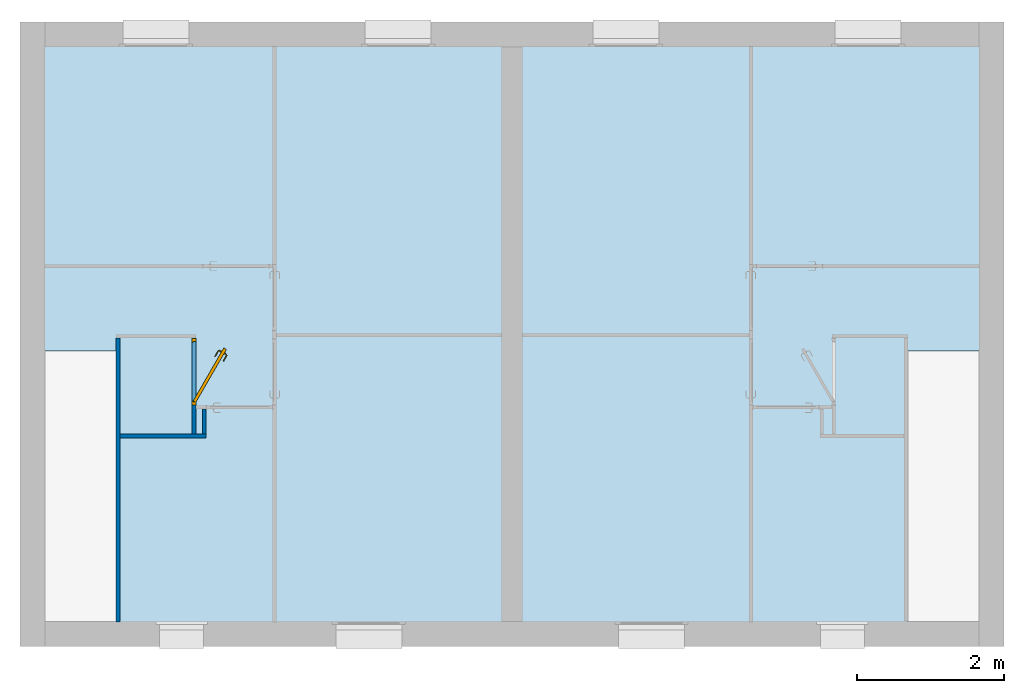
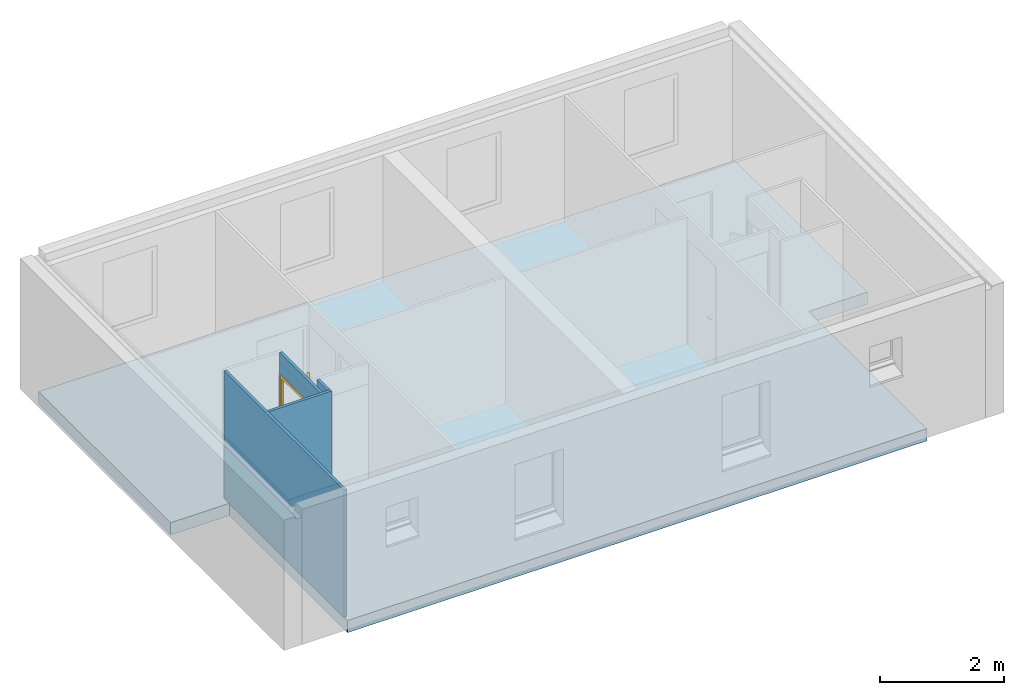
# One storey, part 1 of 13: 4 walls, 1 door, 1 slab, 1 opening.
"""IFC2X3 building model written with IfcOpenShell, lengths in metres."""

import ifcopenshell
import ifcopenshell.guid

model = None  # the IFC model being written
_history = None  # IfcOwnerHistory: only IFC2X3 demands one
_inside = {}  # id of a spatial element -> (the spatial element, [elements in it])
_under = {}  # id of a project, library or spatial element -> (it, [spatial elements below it])
_declared = {}  # id of a project -> (the project, [libraries it declares])
_typed = {}  # id of a type object -> (the type object, [elements of that type])
_made_of = {}  # id of a material, layer set ... -> (it, [elements and type objects made of it])


def new_model(schema):
    """Start an empty IFC model of exactly this schema.

    Asked for "IFC4X3", IfcOpenShell would pick the latest addendum, in which some entities
    have other attributes; the version numbers below select the first issue.
    IFC2X3 requires an IfcOwnerHistory on every rooted entity: one is made here for all.
    """
    global model, _history
    if schema == "IFC4X3":
        model = ifcopenshell.file(schema_version=(4, 3, 0, 0))
    else:
        model = ifcopenshell.file(schema=schema)
    _inside.clear()
    _under.clear()
    _declared.clear()
    _typed.clear()
    _made_of.clear()
    _history = None
    if model.schema == "IFC2X3":
        org = make("IfcOrganization", Name="unknown")
        user = make(
            "IfcPersonAndOrganization",
            ThePerson=make("IfcPerson", FamilyName="unknown"),
            TheOrganization=org,
        )
        app = make(
            "IfcApplication",
            ApplicationDeveloper=org,
            Version="unknown",
            ApplicationFullName="unknown",
            ApplicationIdentifier="unknown",
        )
        _history = make(
            "IfcOwnerHistory",
            OwningUser=user,
            OwningApplication=app,
            ChangeAction="ADDED",
            CreationDate=0,
        )
    return model


def make(cls, **values):
    """One entity of the class cls with the attributes given. An attribute that is None is left unset."""
    return model.create_entity(
        cls, **{name: value for name, value in values.items() if value is not None}
    )


def entity(cls, *values):
    """Any entity or typed value of the class cls, its attributes in the order of the schema. None: left unset."""
    e = model.create_entity(cls)
    for i, value in enumerate(values):
        if value is not None:
            e[i] = value
    return e


def rooted(cls, **values):
    """An entity with a GlobalId (a new one), such as an element, a storey or a relation."""
    return make(cls, GlobalId=ifcopenshell.guid.new(), OwnerHistory=_history, **values)


def si_unit(unit_type, name, prefix=None):
    """IfcSIUnit, for example si_unit("LENGTHUNIT", "METRE", prefix="MILLI")."""
    return make("IfcSIUnit", UnitType=unit_type, Prefix=prefix, Name=name)


def converted_unit(unit_type, name, factor, base, dimensions=None, offset=None):
    """IfcConversionBasedUnit, such as the inch: factor (a typed value) times the base unit."""
    return make(
        "IfcConversionBasedUnit"
        if offset is None
        else "IfcConversionBasedUnitWithOffset",
        ConversionOffset=offset,
        Dimensions=None
        if dimensions is None
        else entity("IfcDimensionalExponents", *dimensions),
        UnitType=unit_type,
        Name=name,
        ConversionFactor=make(
            "IfcMeasureWithUnit", ValueComponent=factor, UnitComponent=base
        ),
    )


def derived_unit(unit_type, elements):
    """IfcDerivedUnit: a product of units, each with its exponent."""
    return make(
        "IfcDerivedUnit",
        Elements=[
            make("IfcDerivedUnitElement", Unit=unit, Exponent=power)
            for unit, power in elements
        ],
        UnitType=unit_type,
    )


def assignment(units):
    """IfcUnitAssignment: the units of a project."""
    return None if units is None else make("IfcUnitAssignment", Units=units)


def point(xyz):
    """IfcCartesianPoint."""
    return None if xyz is None else make("IfcCartesianPoint", Coordinates=xyz)


def direction(xyz):
    """IfcDirection."""
    return None if xyz is None else make("IfcDirection", DirectionRatios=xyz)


def frame(location, z_axis=None, x_axis=None):
    """IfcAxis2Placement3D, a coordinate frame: its origin and axes. An axis left out is left unset."""
    return make(
        "IfcAxis2Placement3D",
        Location=point(location),
        Axis=direction(z_axis),
        RefDirection=direction(x_axis),
    )


def frame_2d(location, x_axis=None):
    """IfcAxis2Placement2D, a coordinate frame in the plane: its origin and x axis."""
    return make(
        "IfcAxis2Placement2D", Location=point(location), RefDirection=direction(x_axis)
    )


def origin():
    """The frame at (0, 0, 0) with its axes left unset."""
    return frame((0.0, 0.0, 0.0))


def place(relative_to, where):
    """IfcLocalPlacement: puts the frame where relative to a parent placement (None: the world)."""
    return make(
        "IfcLocalPlacement", PlacementRelTo=relative_to, RelativePlacement=where
    )


def context(
    kind, dimensions, precision=None, world=None, true_north=None, identifier=None
):
    """IfcGeometricRepresentationContext, for example the 3D "Model" context."""
    return make(
        "IfcGeometricRepresentationContext",
        ContextIdentifier=identifier,
        ContextType=kind,
        CoordinateSpaceDimension=dimensions,
        Precision=precision,
        WorldCoordinateSystem=world,
        TrueNorth=true_north,
    )


def subcontext(parent, identifier, kind, view, scale=None):
    """IfcGeometricRepresentationSubContext, for example "Body" below "Model"."""
    return make(
        "IfcGeometricRepresentationSubContext",
        ContextIdentifier=identifier,
        ContextType=kind,
        ParentContext=parent,
        TargetScale=scale,
        TargetView=view,
    )


def project(units=None, contexts=None):
    """IfcProject with its units and contexts."""
    return rooted(
        "IfcProject",
        Name="project",
        RepresentationContexts=contexts,
        UnitsInContext=assignment(units),
    )


def spatial(cls, under=None, at=None, **own):
    """A site, building, storey or space (cls), placed at a placement, below another one or the project."""
    s = rooted(cls, ObjectPlacement=at, **own)
    if under is not None:
        _under.setdefault(under.id(), (under, []))[1].append(s)
    return s


def polyline(points):
    """IfcPolyline through the points."""
    return make("IfcPolyline", Points=[point(p) for p in points])


def profile(cls, at=None, kind="AREA", **sizes):
    """A parametric profile (cls). Its sizes go by their IFC names, for example OverallWidth=200.0."""
    return make(cls, ProfileType=kind, Position=at, **sizes)


def rectangle(**sizes):
    """IfcRectangleProfileDef."""
    return profile("IfcRectangleProfileDef", **sizes)


def outline(outer, holes=None, kind="AREA"):
    """IfcArbitraryClosedProfileDef: a profile drawn as a closed curve; with holes, ...WithVoids."""
    if holes is None:
        return make("IfcArbitraryClosedProfileDef", ProfileType=kind, OuterCurve=outer)
    return make(
        "IfcArbitraryProfileDefWithVoids",
        ProfileType=kind,
        OuterCurve=outer,
        InnerCurves=holes,
    )


def extrude(swept, where, along, depth):
    """IfcExtrudedAreaSolid: the profile swept, set in the frame where, extruded along a direction by depth."""
    return make(
        "IfcExtrudedAreaSolid",
        SweptArea=swept,
        Position=where,
        ExtrudedDirection=direction(along),
        Depth=depth,
    )


def faces_of(points, faces, orient=None, outer=None):
    """IfcFace entities. A face is a list of loops; a loop is a list of indices into points, from 0.

    orient and outer hold one flag for each loop. By default every Orientation is true, the
    first loop of a face is its IfcFaceOuterBound and the others are IfcFaceBound.
    """
    made = []
    for i, loops in enumerate(faces):
        bounds = []
        for j, loop in enumerate(loops):
            is_outer = j == 0 if outer is None else outer[i][j]
            bounds.append(
                make(
                    "IfcFaceOuterBound" if is_outer else "IfcFaceBound",
                    Bound=make("IfcPolyLoop", Polygon=[points[k] for k in loop]),
                    Orientation=True if orient is None else orient[i][j],
                )
            )
        made.append(make("IfcFace", Bounds=bounds))
    return made


def faceted_brep(points, faces, orient=None, outer=None, voids=None):
    """IfcFacetedBrep: a solid bounded by flat faces; with voids (closed shells), ...WithVoids."""
    shared = [point(p) for p in points]
    hull = make("IfcClosedShell", CfsFaces=faces_of(shared, faces, orient, outer))
    if voids is None:
        return make("IfcFacetedBrep", Outer=hull)
    return make(
        "IfcFacetedBrepWithVoids",
        Outer=hull,
        Voids=[
            make(cls, CfsFaces=faces_of(shared, fs, o, b)) for cls, fs, o, b in voids
        ],
    )


def shape(context_of_items, identifier, shape_type, items):
    """IfcShapeRepresentation: the items that make up one representation, for example the "Body"."""
    return make(
        "IfcShapeRepresentation",
        ContextOfItems=context_of_items,
        RepresentationIdentifier=identifier,
        RepresentationType=shape_type,
        Items=items,
    )


def source(mapping_origin, context_of_items, identifier, shape_type, items):
    """IfcRepresentationMap: a shape defined once, which mapped items show again and again."""
    return make(
        "IfcRepresentationMap",
        MappingOrigin=mapping_origin,
        MappedRepresentation=shape(context_of_items, identifier, shape_type, items),
    )


def transform(
    local_origin,
    x_axis=None,
    y_axis=None,
    z_axis=None,
    scale=None,
    scale2=None,
    scale3=None,
    uniform=True,
):
    """IfcCartesianTransformationOperator3D, or its non-uniform kind. x_axis, y_axis, z_axis: its Axis1, 2, 3."""
    if uniform:
        return make(
            "IfcCartesianTransformationOperator3D",
            Axis1=direction(x_axis),
            Axis2=direction(y_axis),
            LocalOrigin=point(local_origin),
            Scale=scale,
            Axis3=direction(z_axis),
        )
    return make(
        "IfcCartesianTransformationOperator3DnonUniform",
        Axis1=direction(x_axis),
        Axis2=direction(y_axis),
        LocalOrigin=point(local_origin),
        Scale=scale,
        Axis3=direction(z_axis),
        Scale2=scale2,
        Scale3=scale3,
    )


def mapped(mapping_source, mapping_target):
    """IfcMappedItem: shows the shape of a source again, moved by a transform."""
    return make(
        "IfcMappedItem", MappingSource=mapping_source, MappingTarget=mapping_target
    )


def material(Name=None, Category=None):
    """IfcMaterial."""
    return make("IfcMaterial", Name=Name, Category=Category)


def material_list(materials):
    """IfcMaterialList."""
    return make("IfcMaterialList", Materials=materials)


def layer(
    of_material, thickness, ventilated=None, Name=None, Category=None, Priority=None
):
    """IfcMaterialLayer: one layer of a wall or slab, of a material (None: an air gap)."""
    return make(
        "IfcMaterialLayer",
        Material=of_material,
        LayerThickness=thickness,
        IsVentilated=ventilated,
        Name=Name,
        Category=Category,
        Priority=Priority,
    )


def layer_set(layers, Name=None):
    """IfcMaterialLayerSet."""
    return make("IfcMaterialLayerSet", MaterialLayers=layers, LayerSetName=Name)


def layer_usage(for_layer_set, set_direction, sense, offset, extent=None):
    """IfcMaterialLayerSetUsage: how a layer set lies in its element."""
    return make(
        "IfcMaterialLayerSetUsage",
        ForLayerSet=for_layer_set,
        LayerSetDirection=set_direction,
        DirectionSense=sense,
        OffsetFromReferenceLine=offset,
        ReferenceExtent=extent,
    )


def made_of(thing, what):
    """Note that an element or type object is made of a material, layer set ...; save() writes the relation."""
    if what is not None:
        _made_of.setdefault(what.id(), (what, []))[1].append(thing)
    return thing


def type_object(cls, material=None, **own):
    """A type object (cls), such as IfcWallType, which elements share."""
    return made_of(rooted(cls, **own), material)


def type_shapes(of_type, sources):
    """Give a type object the sources (RepresentationMaps) that its elements show as mapped items."""
    of_type.RepresentationMaps = sources


def element(
    cls,
    number,
    at=None,
    inside=None,
    cuts=None,
    type_object=None,
    material=None,
    context=None,
    identifier="Body",
    shape_type=None,
    held_by="IfcProductDefinitionShape",
    body=None,
    shapes=None,
    **own,
):
    """One element of the class cls, such as IfcWall. Its Tag is "e" and its number.

    at: its placement. inside: the storey or other place that contains it. cuts: it is an
    opening in that element (IfcRelVoidsElement). A single representation is given by context,
    identifier, shape_type and body (its items); several are given by shapes. held_by: the class
    of the entity that holds the representations. save() writes the other relations.
    """
    e = rooted(cls, Tag="e%d" % number, ObjectPlacement=at, **own)
    if body is not None:
        shapes = [shape(context, identifier, shape_type, body)]
    if shapes is not None:
        e.Representation = make(held_by, Representations=shapes)
    if inside is not None:
        _inside.setdefault(inside.id(), (inside, []))[1].append(e)
    if cuts is not None:
        rooted(
            "IfcRelVoidsElement", RelatingBuildingElement=cuts, RelatedOpeningElement=e
        )
    if type_object is not None:
        _typed.setdefault(type_object.id(), (type_object, []))[1].append(e)
    return made_of(e, material)


def fill(opening, filler):
    """IfcRelFillsElement: the door or window that sits in an opening."""
    return rooted(
        "IfcRelFillsElement",
        RelatingOpeningElement=opening,
        RelatedBuildingElement=filler,
    )


def aggregate(whole, parts):
    """IfcRelAggregates: a whole, such as a stair, and the parts it consists of."""
    return rooted("IfcRelAggregates", RelatingObject=whole, RelatedObjects=parts)


def save(model, path):
    """Write the relations noted so far, then the file.

    IfcRelAggregates (storeys below a building ...), IfcRelContainedInSpatialStructure (elements
    in a storey), IfcRelDefinesByType, IfcRelAssociatesMaterial and IfcRelDeclares: one each for
    every whole, place, type object, material and project.
    """
    for whole, parts in _under.values():
        aggregate(whole, parts)
    for where, things in _inside.values():
        rooted(
            "IfcRelContainedInSpatialStructure",
            RelatedElements=things,
            RelatingStructure=where,
        )
    for kind, things in _typed.values():
        rooted("IfcRelDefinesByType", RelatedObjects=things, RelatingType=kind)
    for what, things in _made_of.values():
        rooted("IfcRelAssociatesMaterial", RelatedObjects=things, RelatingMaterial=what)
    for by, libraries in _declared.values():
        rooted("IfcRelDeclares", RelatingContext=by, RelatedDefinitions=libraries)
    model.write(path)


model = new_model("IFC2X3")

# Units and contexts
model_context = context("Model", 3, precision=1e-05, world=origin(), true_north=direction((6.12303176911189e-17, 1.0)))
body_context = subcontext(model_context, "Body", "Model", "MODEL_VIEW")
ifc_project = project(units=[si_unit("LENGTHUNIT", "METRE"), si_unit("AREAUNIT", "SQUARE_METRE"), si_unit("VOLUMEUNIT", "CUBIC_METRE"), converted_unit("PLANEANGLEUNIT", "DEGREE", entity("IfcRatioMeasure", 0.0174532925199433), si_unit("PLANEANGLEUNIT", "RADIAN"), dimensions=[0, 0, 0, 0, 0, 0, 0]), si_unit("MASSUNIT", "GRAM", prefix="KILO"), si_unit("TIMEUNIT", "SECOND"), si_unit("FREQUENCYUNIT", "HERTZ"), si_unit("THERMODYNAMICTEMPERATUREUNIT", "DEGREE_CELSIUS"), derived_unit("THERMALTRANSMITTANCEUNIT", [(si_unit("MASSUNIT", "GRAM", prefix="KILO"), 1), (si_unit("THERMODYNAMICTEMPERATUREUNIT", "KELVIN"), -1), (si_unit("TIMEUNIT", "SECOND"), -3)]), derived_unit("VOLUMETRICFLOWRATEUNIT", [(si_unit("LENGTHUNIT", "METRE"), 3), (si_unit("TIMEUNIT", "SECOND"), -1)]), si_unit("ELECTRICCURRENTUNIT", "AMPERE"), si_unit("ELECTRICVOLTAGEUNIT", "VOLT"), si_unit("POWERUNIT", "WATT"), si_unit("FORCEUNIT", "NEWTON", prefix="KILO"), si_unit("ILLUMINANCEUNIT", "LUX"), si_unit("LUMINOUSFLUXUNIT", "LUMEN"), si_unit("LUMINOUSINTENSITYUNIT", "CANDELA"), derived_unit("USERDEFINED", [(si_unit("MASSUNIT", "GRAM", prefix="KILO"), -1), (si_unit("LENGTHUNIT", "METRE"), -2), (si_unit("TIMEUNIT", "SECOND"), 3), (si_unit("LUMINOUSFLUXUNIT", "LUMEN"), 1)]), derived_unit("LINEARVELOCITYUNIT", [(si_unit("LENGTHUNIT", "METRE"), 1), (si_unit("TIMEUNIT", "SECOND"), -1)]), si_unit("PRESSUREUNIT", "PASCAL"), derived_unit("USERDEFINED", [(si_unit("LENGTHUNIT", "METRE"), -2), (si_unit("MASSUNIT", "GRAM", prefix="KILO"), 1), (si_unit("TIMEUNIT", "SECOND"), -2)])], contexts=[model_context])

# Site, building, storey
site_placement = place(None, origin())
site = spatial("IfcSite", under=ifc_project, at=site_placement, Name="Surface", CompositionType="ELEMENT")
building_placement = place(site_placement, origin())
building = spatial("IfcBuilding", under=site, at=building_placement, CompositionType="ELEMENT")
storey_placement = place(building_placement, frame((0.0, 0.0, 2.74)))
storey = spatial("IfcBuildingStorey", under=building, at=storey_placement, Name="Plan étage", CompositionType="ELEMENT", Elevation=2.74)

# Slab
ifc_material_1 = material(Name="<Unnamed>")
ifc_layer_1 = layer(ifc_material_1, 0.01)
ifc_material_2 = material(Name="Maçonnerie - Béton")
ifc_layer_2 = layer(ifc_material_2, 0.22)
ifc_layer_3 = layer(ifc_material_1, 0.01)
ifc_layer_set_1 = layer_set([ifc_layer_1, ifc_layer_2, ifc_layer_3], Name="Sol:Dalle Béton -160 + 60 mm")
ifc_layer_usage_1 = layer_usage(ifc_layer_set_1, "AXIS3", "POSITIVE", 0.0)
slab_placement = place(storey_placement, origin())
element("IfcSlab", 1, at=slab_placement, inside=storey, material=ifc_layer_usage_1, Name="Sol:Dalle Béton -160 + 60 mm", ObjectType="Sol:Dalle Béton -160 + 60 mm", PredefinedType="FLOOR", context=body_context, shape_type="SweptSolid", body=[
    extrude(outline(polyline([(-0.112749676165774, -6.47999999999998), (4.14341655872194, -6.47999999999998), (4.14341655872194, 6.47999999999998), (-0.114083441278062, 6.47999999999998), (-0.114083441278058, 5.38999999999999), (-3.9165834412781, 5.38999999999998), (-3.9165834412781, -5.38999999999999), (-0.112749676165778, -5.38999999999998), (-0.112749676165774, -6.47999999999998)])), frame((-4.93608881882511, 1.32083922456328, 0.0), z_axis=(0.0, 0.0, -1.0), x_axis=(0.0, 1.0, 0.0)), (0.0, 0.0, 1.0), 0.24),
])

# Wall, opening, door
ifc_material_3 = material(Name="Maçonnerie - Isolant(1)")
ifc_layer_4 = layer(ifc_material_3, 0.05)
ifc_layer_set_2 = layer_set([ifc_layer_4], Name="Mur de base:Int. plâtre 50 mm")
ifc_layer_usage_2 = layer_usage(ifc_layer_set_2, "AXIS2", "NEGATIVE", 0.025)
wall_type = type_object("IfcWallType", Name="Mur de base:Int. plâtre 50 mm", PredefinedType="STANDARD", material=ifc_layer_set_2)
wall_1_placement = place(storey_placement, frame((-9.26608881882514, 1.38425578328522, -0.00999999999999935), z_axis=(0.0, 0.0, 1.0), x_axis=(0.0, -1.0, 0.0)))
wall_1 = element("IfcWallStandardCase", 2, at=wall_1_placement, inside=storey, type_object=wall_type, material=ifc_layer_usage_2, Name="Mur de base:Int. plâtre 50 mm", ObjectType="Mur de base:Int. plâtre 50 mm", context=body_context, shape_type="SweptSolid", body=[
    extrude(rectangle(XDim=1.31, YDim=0.0499999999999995, at=frame_2d((0.655000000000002, 0.0), x_axis=(-1.0, 0.0))), origin(), (0.0, 0.0, 1.0), 2.51),
])
opening_placement = place(wall_1_placement, frame((0.0100000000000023, -0.025, 0.00999999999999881)))
opening = element("IfcOpeningElement", 3, at=opening_placement, cuts=wall_1, Name="Int. Simple:PP (0.83m x 2.04m):1", ObjectType="Opening", context=body_context, shape_type="SweptSolid", body=[
    extrude(rectangle(XDim=2.075, YDim=0.9, at=frame_2d((1.0375, 0.45), x_axis=(1.0, 0.0))), frame((0.0, 0.0, 0.0), z_axis=(0.0, 1.0, 0.0), x_axis=(0.0, 0.0, 1.0)), (0.0, 0.0, 1.0), 0.05),
])
ifc_material_4 = material(Name="Finition Peinture - Blanc satiné")
ifc_material_5 = material(Name="Bois - Panneau de porte")
ifc_material_6 = material(Name="Bois - Cadre de porte")
ifc_material_list_1 = material_list([ifc_material_4, ifc_material_5, ifc_material_6])
ifc_material_list_2 = material_list([ifc_material_4, ifc_material_5, ifc_material_6])
door_style = type_object("IfcDoorStyle", Name="PP (0.83m x 2.04m)", ConstructionType="NOTDEFINED", OperationType="SINGLE_SWING_RIGHT", ParameterTakesPrecedence=False, Sizeable=False, material=ifc_material_list_2)
shared_shape = source(origin(), body_context, "Body", "Brep", [
    faceted_brep([(0.786660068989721, -0.399330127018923, 0.870000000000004), (0.786660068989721, -0.399330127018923, 1.08), (0.778305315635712, -0.394506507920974, 1.08399601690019), (0.769339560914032, -0.389330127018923, 1.08535898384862), (0.760373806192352, -0.384153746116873, 1.08399601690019), (0.752019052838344, -0.379330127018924, 1.08), (0.752019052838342, -0.379330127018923, 0.870000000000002), (0.760373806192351, -0.384153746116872, 0.866003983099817), (0.769339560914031, -0.389330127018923, 0.86464101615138), (0.778305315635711, -0.394506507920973, 0.866003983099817), (0.789160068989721, -0.395000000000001, 1.08), (0.789160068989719, -0.395, 0.870000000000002), (0.780805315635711, -0.390176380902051, 0.866003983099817), (0.771839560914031, -0.385, 0.86464101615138), (0.76287380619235, -0.37982361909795, 0.866003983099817), (0.754519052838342, -0.375000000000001, 0.870000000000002), (0.754519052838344, -0.375000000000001, 1.08), (0.762873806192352, -0.379823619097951, 1.08399601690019), (0.771839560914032, -0.385000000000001, 1.08535898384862), (0.780805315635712, -0.390176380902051, 1.08399601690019)], [[[0, 1, 2, 3, 4, 5, 6, 7, 8, 9]], [[10, 11, 12, 13, 14, 15, 16, 17, 18, 19]], [[9, 12, 11, 0]], [[8, 13, 12, 9]], [[7, 14, 13, 8]], [[7, 6, 15, 14]], [[15, 6, 5, 16]], [[4, 17, 16, 5]], [[3, 18, 17, 4]], [[2, 19, 18, 3]], [[2, 1, 10, 19]], [[11, 10, 1, 0]]]),
    faceted_brep([(0.809160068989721, -0.360358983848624, 0.870000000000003), (0.809160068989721, -0.360358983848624, 1.08), (0.800805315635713, -0.355535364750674, 1.08399601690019), (0.791839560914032, -0.350358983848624, 1.08535898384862), (0.782873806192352, -0.345182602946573, 1.08399601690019), (0.774519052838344, -0.340358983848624, 1.08), (0.774519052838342, -0.340358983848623, 0.870000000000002), (0.782873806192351, -0.345182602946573, 0.866003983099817), (0.791839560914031, -0.350358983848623, 0.86464101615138), (0.800805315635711, -0.355535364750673, 0.866003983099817), (0.794339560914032, -0.346028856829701, 1.08535898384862), (0.803305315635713, -0.351205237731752, 1.08399601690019), (0.811660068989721, -0.356028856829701, 1.08), (0.811660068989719, -0.356028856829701, 0.870000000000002), (0.803305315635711, -0.351205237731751, 0.866003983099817), (0.794339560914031, -0.346028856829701, 0.86464101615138), (0.785373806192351, -0.34085247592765, 0.866003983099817), (0.777019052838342, -0.336028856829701, 0.870000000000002), (0.777019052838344, -0.336028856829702, 1.08), (0.785373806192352, -0.340852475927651, 1.08399601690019)], [[[0, 1, 2, 3, 4, 5, 6, 7, 8, 9]], [[10, 11, 12, 13, 14, 15, 16, 17, 18, 19]], [[4, 19, 18, 5]], [[3, 10, 19, 4]], [[2, 11, 10, 3]], [[2, 1, 12, 11]], [[13, 12, 1, 0]], [[9, 14, 13, 0]], [[8, 15, 14, 9]], [[7, 16, 15, 8]], [[7, 6, 17, 16]], [[17, 6, 5, 18]]]),
    faceted_brep([(0.767585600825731, -0.388317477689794, 1.00778044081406), (0.771093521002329, -0.390342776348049, 1.00778044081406), (0.774535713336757, -0.392330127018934, 1.00699999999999), (0.774535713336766, -0.392330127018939, 0.992999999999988), (0.771093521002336, -0.390342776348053, 0.99221955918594), (0.767585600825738, -0.388317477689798, 0.992219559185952), (0.764143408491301, -0.386330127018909, 0.993000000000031), (0.764143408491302, -0.38633012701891, 1.007), (0.758091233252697, -0.412863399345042, 1.00778044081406), (0.760710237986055, -0.416276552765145, 1.007), (0.755422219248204, -0.409385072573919, 1.00778044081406), (0.736740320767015, -0.414390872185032, 1.00778044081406), (0.73616805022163, -0.418737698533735, 1.00778044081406), (0.752803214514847, -0.405971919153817, 1.007), (0.752803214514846, -0.405971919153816, 0.993000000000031), (0.755422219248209, -0.409385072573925, 0.992219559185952), (0.758091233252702, -0.412863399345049, 0.99221955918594), (0.736168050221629, -0.418737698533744, 0.99221955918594), (0.736740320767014, -0.414390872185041, 0.992219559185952), (0.76071023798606, -0.416276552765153, 0.992999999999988), (0.735606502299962, -0.423003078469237, 1.007), (0.737301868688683, -0.410125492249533, 1.007), (0.737301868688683, -0.410125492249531, 0.993000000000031), (0.735606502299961, -0.423003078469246, 0.992999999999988), (0.659706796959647, -0.37918236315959, 1.007), (0.661694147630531, -0.375740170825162, 1.00778044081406), (0.663719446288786, -0.372232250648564, 1.00778044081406), (0.665706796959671, -0.368790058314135, 1.00699999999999), (0.665706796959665, -0.368790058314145, 0.993000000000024), (0.663719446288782, -0.372232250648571, 0.992219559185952), (0.661694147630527, -0.375740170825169, 0.99221955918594), (0.659706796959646, -0.379182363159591, 0.992999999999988), (0.699217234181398, -0.395065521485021, 1.0078786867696), (0.70102568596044, -0.403037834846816, 1.007), (0.701504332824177, -0.389457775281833, 1.007), (0.701504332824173, -0.389457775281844, 0.993000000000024), (0.699217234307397, -0.395065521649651, 0.992121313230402), (0.701025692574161, -0.403037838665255, 0.992999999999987)], [[[0, 1, 2, 3, 4, 5, 6, 7]], [[2, 1, 8, 9]], [[1, 0, 10, 11, 12, 8]], [[0, 7, 13, 10]], [[14, 13, 7, 6]], [[5, 15, 14, 6]], [[5, 4, 16, 17, 18, 15]], [[3, 19, 16, 4]], [[9, 19, 3, 2]], [[9, 8, 12, 20]], [[10, 13, 21, 11]], [[22, 21, 13, 14]], [[14, 15, 18, 22]], [[16, 19, 23, 17]], [[20, 23, 19, 9]], [[24, 25, 26, 27, 28, 29, 30, 31]], [[32, 25, 33]], [[33, 25, 24]], [[33, 20, 12]], [[11, 34, 32]], [[34, 11, 21]], [[27, 26, 34]], [[32, 26, 25]], [[32, 34, 26]], [[32, 33, 12]], [[11, 32, 12]], [[21, 22, 35, 28, 27, 34]], [[36, 29, 35]], [[30, 36, 37]], [[18, 35, 22]], [[29, 28, 35]], [[30, 37, 31]], [[37, 17, 23]], [[36, 17, 37]], [[36, 18, 17]], [[36, 35, 18]], [[29, 36, 30]], [[23, 20, 33, 24, 31, 37]]]),
    faceted_brep([(0.792585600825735, -0.345016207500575, 0.992219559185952), (0.796093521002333, -0.34704150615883, 0.99221955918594), (0.799535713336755, -0.349028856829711, 0.992999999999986), (0.799535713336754, -0.34902885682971, 1.007), (0.796093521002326, -0.347041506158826, 1.00778044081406), (0.792585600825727, -0.345016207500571, 1.00778044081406), (0.789143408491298, -0.343028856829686, 1.007), (0.789143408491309, -0.343028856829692, 0.993000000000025), (0.8003860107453, -0.323556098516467, 1.007), (0.800386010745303, -0.323556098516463, 0.993000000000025), (0.804651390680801, -0.324117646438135, 1.00778044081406), (0.808998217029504, -0.32468991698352, 1.00778044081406), (0.803073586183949, -0.302578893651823, 1.00778044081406), (0.799595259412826, -0.305247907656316, 1.00778044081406), (0.813263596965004, -0.325251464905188, 1.007), (0.813263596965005, -0.325251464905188, 0.992999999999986), (0.808998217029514, -0.324689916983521, 0.99221955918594), (0.804651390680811, -0.324117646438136, 0.992219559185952), (0.799595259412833, -0.30524790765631, 0.992219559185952), (0.803073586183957, -0.302578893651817, 0.99221955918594), (0.796182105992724, -0.307866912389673, 1.007), (0.796182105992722, -0.307866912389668, 0.993000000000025), (0.80648673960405, -0.299959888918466, 1.007), (0.806486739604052, -0.299959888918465, 0.992999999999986), (0.726669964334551, -0.263144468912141, 1.00778044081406), (0.728695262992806, -0.259636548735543, 1.00778044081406), (0.730682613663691, -0.256194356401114, 1.007), (0.730682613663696, -0.256194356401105, 0.992999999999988), (0.72869526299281, -0.259636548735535, 0.99221955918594), (0.726669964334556, -0.263144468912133, 0.992219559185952), (0.724682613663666, -0.26658666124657, 0.993000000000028), (0.724682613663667, -0.266586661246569, 1.007), (0.760432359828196, -0.287226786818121, 1.007), (0.760432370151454, -0.28722679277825, 0.993000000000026), (0.764145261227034, -0.282442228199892, 1.0078786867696), (0.771905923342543, -0.279994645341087, 1.007), (0.771905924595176, -0.279994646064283, 0.992999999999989), (0.764145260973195, -0.282442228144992, 0.992121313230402)], [[[0, 1, 2, 3, 4, 5, 6, 7]], [[8, 9, 7, 6]], [[5, 10, 8, 6]], [[5, 4, 11, 12, 13, 10]], [[3, 14, 11, 4]], [[14, 3, 2, 15]], [[2, 1, 16, 15]], [[1, 0, 17, 18, 19, 16]], [[0, 7, 9, 17]], [[20, 21, 9, 8]], [[8, 10, 13, 20]], [[14, 22, 12, 11]], [[23, 22, 14, 15]], [[15, 16, 19, 23]], [[17, 9, 21, 18]], [[24, 25, 26, 27, 28, 29, 30, 31]], [[21, 20, 32, 31, 30, 33]], [[34, 24, 32]], [[25, 34, 35]], [[13, 32, 20]], [[24, 31, 32]], [[25, 35, 26]], [[35, 12, 22]], [[34, 12, 35]], [[34, 13, 12]], [[34, 32, 13]], [[24, 34, 25]], [[22, 23, 36, 27, 26, 35]], [[37, 28, 36]], [[36, 28, 27]], [[36, 23, 19]], [[18, 33, 37]], [[33, 18, 21]], [[30, 29, 33]], [[37, 29, 28]], [[37, 33, 29]], [[37, 36, 19]], [[18, 37, 19]]]),
    faceted_brep([(0.843801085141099, -0.380358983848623, 2.04), (0.843801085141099, -0.380358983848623, 0.0), (0.125000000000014, 0.0346410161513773, 0.0), (0.125000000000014, 0.0346410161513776, 2.04), (0.823801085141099, -0.415, 2.04), (0.105000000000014, 0.0, 2.04), (0.105000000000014, 0.0, 0.0), (0.823801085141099, -0.415, 0.0)], [[[0, 1, 2, 3]], [[4, 5, 6, 7]], [[3, 5, 4, 0]], [[2, 6, 5, 3]], [[1, 7, 6, 2]], [[0, 4, 7, 1]]]),
    faceted_brep([(0.970000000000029, 0.0, 0.0), (0.935000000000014, 0.0, 0.0), (0.935000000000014, 0.040000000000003, 0.0), (0.920000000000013, 0.040000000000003, 0.0), (0.920000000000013, 0.050000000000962, 0.0), (0.970000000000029, 0.050000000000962, 0.0), (0.970000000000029, 0.050000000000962, 2.07500000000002), (0.970000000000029, 0.0, 2.07500000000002), (0.920000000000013, 0.050000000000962, 2.025), (0.120000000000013, 0.050000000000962, 2.025), (0.120000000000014, 0.050000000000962, 0.0), (0.0699999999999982, 0.050000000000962, 0.0), (0.0699999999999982, 0.050000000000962, 2.07500000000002), (0.920000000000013, 0.040000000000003, 2.025), (0.935000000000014, 0.040000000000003, 2.04), (0.105000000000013, 0.040000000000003, 2.04), (0.105000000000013, 0.040000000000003, 0.0), (0.120000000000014, 0.040000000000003, 0.0), (0.120000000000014, 0.040000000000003, 2.025), (0.935000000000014, 0.0, 2.04), (0.069999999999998, 0.0, 2.07500000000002), (0.0699999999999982, 0.0, 0.0), (0.105000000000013, 0.0, 0.0), (0.105000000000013, 0.0, 2.04)], [[[0, 1, 2, 3, 4, 5]], [[5, 6, 7, 0]], [[4, 8, 9, 10, 11, 12, 6, 5]], [[3, 13, 8, 4]], [[2, 14, 15, 16, 17, 18, 13, 3]], [[1, 19, 14, 2]], [[0, 7, 20, 21, 22, 23, 19, 1]], [[12, 11, 21, 20]], [[21, 11, 10, 17, 16, 22]], [[18, 17, 10, 9]], [[23, 22, 16, 15]], [[6, 12, 20, 7]], [[13, 18, 9, 8]], [[19, 23, 15, 14]]]),
    faceted_brep([(0.955000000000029, 0.050000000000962, 0.0), (0.955000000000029, 0.055000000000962, 0.0), (0.985000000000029, 0.055000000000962, 0.0), (0.985000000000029, 0.050000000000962, 0.0), (0.985000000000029, 0.050000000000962, 2.09000000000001), (0.0550000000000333, 0.050000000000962, 2.09000000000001), (0.0550000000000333, 0.050000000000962, 0.0), (0.0850000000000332, 0.050000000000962, 0.0), (0.0850000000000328, 0.050000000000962, 2.06000000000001), (0.955000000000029, 0.050000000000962, 2.06000000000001), (0.985000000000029, 0.055000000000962, 2.09000000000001), (0.955000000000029, 0.055000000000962, 2.06000000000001), (0.0850000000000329, 0.055000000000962, 2.06000000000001), (0.0850000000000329, 0.055000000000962, 0.0), (0.055000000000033, 0.055000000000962, 0.0), (0.0550000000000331, 0.055000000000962, 2.09000000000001)], [[[0, 1, 2, 3]], [[3, 4, 5, 6, 7, 8, 9, 0]], [[2, 10, 4, 3]], [[1, 11, 12, 13, 14, 15, 10, 2]], [[0, 9, 11, 1]], [[7, 6, 14, 13]], [[8, 7, 13, 12]], [[15, 14, 6, 5]], [[10, 15, 5, 4]], [[9, 8, 12, 11]]]),
    faceted_brep([(0.985000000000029, -0.005, 0.0), (0.985000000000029, -0.005, 2.09000000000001), (0.0550000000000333, -0.005, 2.09000000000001), (0.0550000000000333, -0.005, 0.0), (0.0850000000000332, -0.005, 0.0), (0.0850000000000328, -0.005, 2.06000000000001), (0.955000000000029, -0.005, 2.06000000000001), (0.955000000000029, -0.005, 0.0), (0.985000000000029, 0.0, 0.0), (0.985000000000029, 0.0, 2.09000000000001), (0.955000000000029, 0.0, 0.0), (0.955000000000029, 0.0, 2.06000000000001), (0.0850000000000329, 0.0, 2.06000000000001), (0.0850000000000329, 0.0, 0.0), (0.055000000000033, 0.0, 0.0), (0.0550000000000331, 0.0, 2.09000000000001)], [[[0, 1, 2, 3, 4, 5, 6, 7]], [[8, 9, 1, 0]], [[10, 11, 12, 13, 14, 15, 9, 8]], [[7, 6, 11, 10]], [[5, 4, 13, 12]], [[15, 14, 3, 2]], [[9, 15, 2, 1]], [[6, 5, 12, 11]], [[4, 3, 14, 13]], [[7, 10, 8, 0]]]),
])
type_shapes(door_style, [shared_shape])
door_placement = place(opening_placement, frame((0.970000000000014, 0.0499999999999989, 0.0), z_axis=(0.0, 0.0, 1.0), x_axis=(-1.0, 0.0, 0.0)))
door = element("IfcDoor", 4, at=door_placement, inside=storey, type_object=door_style, material=ifc_material_list_1, Name="Int. Simple:PP (0.83m x 2.04m)", ObjectType="PP (0.83m x 2.04m)", OverallHeight=2.075, OverallWidth=0.9, context=body_context, shape_type="MappedRepresentation", body=[
    mapped(shared_shape, transform((0.0, 0.0, 0.0), scale=1.0)),
])
fill(opening, door)

# Walls
ifc_layer_usage_3 = layer_usage(ifc_layer_set_2, "AXIS2", "NEGATIVE", 0.025)
wall_2_placement = place(storey_placement, frame((-9.10108881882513, 0.049255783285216, -0.00999999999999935), z_axis=(0.0, 0.0, 1.0), x_axis=(-1.0, 0.0, 0.0)))
element("IfcWallStandardCase", 5, at=wall_2_placement, inside=storey, type_object=wall_type, material=ifc_layer_usage_3, Name="Mur de base:Int. plâtre 50 mm", ObjectType="Mur de base:Int. plâtre 50 mm", context=body_context, shape_type="SweptSolid", body=[
    extrude(rectangle(XDim=1.17499999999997, YDim=0.05, at=frame_2d((0.587499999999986, 0.0), x_axis=(-1.0, 0.0))), origin(), (0.0, 0.0, 1.0), 2.51),
])
ifc_layer_usage_4 = layer_usage(ifc_layer_set_2, "AXIS2", "NEGATIVE", 0.025)
wall_3_placement = place(storey_placement, frame((-10.3010888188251, -2.48574421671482, -0.00999999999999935), z_axis=(0.0, 0.0, 1.0), x_axis=(0.0, 1.0, 0.0)))
element("IfcWallStandardCase", 6, at=wall_3_placement, inside=storey, type_object=wall_type, material=ifc_layer_usage_4, Name="Mur de base:Int. plâtre 50 mm", ObjectType="Mur de base:Int. plâtre 50 mm", context=body_context, shape_type="SweptSolid", body=[
    extrude(rectangle(XDim=3.87000000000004, YDim=0.0500000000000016, at=frame_2d((1.93500000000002, 0.0), x_axis=(-1.0, 0.0))), origin(), (0.0, 0.0, 1.0), 2.51),
])
ifc_layer_usage_5 = layer_usage(ifc_layer_set_2, "AXIS2", "NEGATIVE", 0.025)
wall_4_placement = place(storey_placement, frame((-9.12608881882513, 0.414255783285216, -0.00999999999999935), z_axis=(0.0, 0.0, 1.0), x_axis=(0.0, -1.0, 0.0)))
element("IfcWallStandardCase", 7, at=wall_4_placement, inside=storey, type_object=wall_type, material=ifc_layer_usage_5, Name="Mur de base:Int. plâtre 50 mm", ObjectType="Mur de base:Int. plâtre 50 mm", context=body_context, shape_type="SweptSolid", body=[
    extrude(rectangle(XDim=0.34, YDim=0.0499999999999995, at=frame_2d((0.17, 0.0), x_axis=(-1.0, 0.0))), origin(), (0.0, 0.0, 1.0), 2.51),
])

save(model, "model.ifc")
